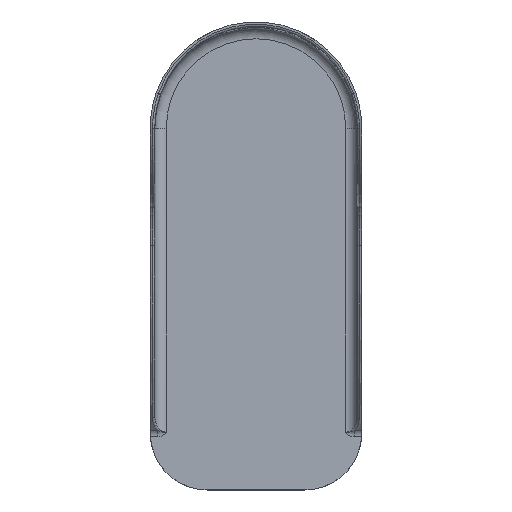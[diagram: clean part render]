
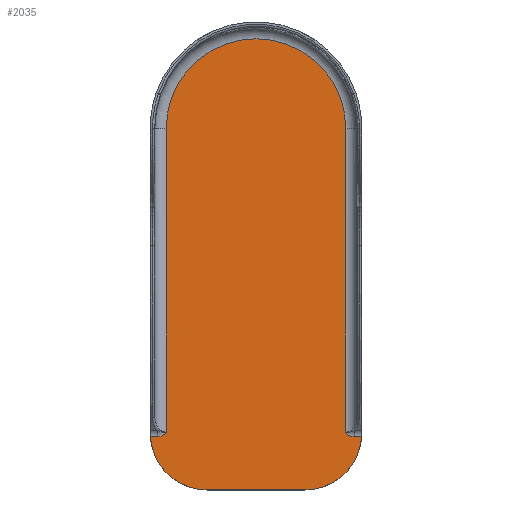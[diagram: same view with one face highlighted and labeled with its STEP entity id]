
A CAD part, top view. The second image highlights one B-rep face of the part: STEP entity #2035.
In plain terms, the highlighted planar face has unit normal (0, 0, 1).
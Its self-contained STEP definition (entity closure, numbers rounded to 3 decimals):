
#88=PLANE('',#2137);
#101=LINE('',#2839,#175);
#102=LINE('',#2846,#176);
#103=LINE('',#2850,#177);
#104=LINE('',#2864,#178);
#105=LINE('',#2868,#179);
#175=VECTOR('',#2319,10.);
#176=VECTOR('',#2322,10.);
#177=VECTOR('',#2325,10.);
#178=VECTOR('',#2326,10.);
#179=VECTOR('',#2329,10.);
#300=FACE_OUTER_BOUND('',#387,.T.);
#387=EDGE_LOOP('',(#1371,#1372,#1373,#1374,#1375,#1376,#1377,#1378,#1379,
#1380));
#527=B_SPLINE_CURVE_WITH_KNOTS('',3,(#2818,#2819,#2820,#2821,#2822,#2823,
#2824,#2825,#2826,#2827,#2828,#2829,#2830,#2831,#2832),.UNSPECIFIED.,.F.,
 .F.,(4,2,1,1,1,1,1,1,1,1,1,4),(-0.431,-0.43,-0.387,
-0.344,-0.301,-0.258,-0.215,
-0.172,-0.129,-0.086,-0.043,
0.),.UNSPECIFIED.);
#529=B_SPLINE_CURVE_WITH_KNOTS('',3,(#2852,#2853,#2854,#2855,#2856,#2857,
#2858,#2859,#2860,#2861,#2862),.UNSPECIFIED.,.F.,.F.,(4,1,1,1,1,1,2,4),
(-0.43,-0.344,-0.258,-0.215,
-0.172,-0.086,0.,0.001),
 .UNSPECIFIED.);
#691=CIRCLE('',#2138,39.45);
#692=CIRCLE('',#2139,25.);
#693=CIRCLE('',#2140,25.);
#784=VERTEX_POINT('',#2799);
#786=VERTEX_POINT('',#2802);
#789=VERTEX_POINT('',#2838);
#790=VERTEX_POINT('',#2845);
#791=VERTEX_POINT('',#2847);
#792=VERTEX_POINT('',#2849);
#793=VERTEX_POINT('',#2851);
#794=VERTEX_POINT('',#2863);
#795=VERTEX_POINT('',#2865);
#796=VERTEX_POINT('',#2867);
#1033=EDGE_CURVE('',#786,#784,#527,.T.);
#1036=EDGE_CURVE('',#784,#789,#101,.T.);
#1038=EDGE_CURVE('',#790,#786,#102,.T.);
#1039=EDGE_CURVE('',#791,#790,#691,.T.);
#1040=EDGE_CURVE('',#792,#791,#103,.T.);
#1041=EDGE_CURVE('',#793,#792,#529,.T.);
#1042=EDGE_CURVE('',#794,#793,#104,.T.);
#1043=EDGE_CURVE('',#794,#795,#692,.T.);
#1044=EDGE_CURVE('',#795,#796,#105,.T.);
#1045=EDGE_CURVE('',#796,#789,#693,.T.);
#1371=ORIENTED_EDGE('',*,*,#1036,.F.);
#1372=ORIENTED_EDGE('',*,*,#1033,.F.);
#1373=ORIENTED_EDGE('',*,*,#1038,.F.);
#1374=ORIENTED_EDGE('',*,*,#1039,.F.);
#1375=ORIENTED_EDGE('',*,*,#1040,.F.);
#1376=ORIENTED_EDGE('',*,*,#1041,.F.);
#1377=ORIENTED_EDGE('',*,*,#1042,.F.);
#1378=ORIENTED_EDGE('',*,*,#1043,.T.);
#1379=ORIENTED_EDGE('',*,*,#1044,.T.);
#1380=ORIENTED_EDGE('',*,*,#1045,.T.);
#2035=ADVANCED_FACE('',(#300),#88,.T.);
#2137=AXIS2_PLACEMENT_3D('',#2844,#2320,#2321);
#2138=AXIS2_PLACEMENT_3D('',#2848,#2323,#2324);
#2139=AXIS2_PLACEMENT_3D('',#2866,#2327,#2328);
#2140=AXIS2_PLACEMENT_3D('',#2869,#2330,#2331);
#2319=DIRECTION('',(1.,0.,0.));
#2320=DIRECTION('center_axis',(0.,0.,1.));
#2321=DIRECTION('ref_axis',(1.,0.,0.));
#2322=DIRECTION('',(0.,-1.,0.));
#2323=DIRECTION('center_axis',(0.,0.,-1.));
#2324=DIRECTION('ref_axis',(0.,1.,0.));
#2325=DIRECTION('',(0.,1.,0.));
#2326=DIRECTION('',(1.,0.,0.));
#2327=DIRECTION('center_axis',(0.,0.,1.));
#2328=DIRECTION('ref_axis',(1.,0.,0.));
#2329=DIRECTION('',(1.,0.,0.));
#2330=DIRECTION('center_axis',(0.,0.,1.));
#2331=DIRECTION('ref_axis',(1.,0.,0.));
#2799=CARTESIAN_POINT('',(43.095,-135.262,2.));
#2802=CARTESIAN_POINT('',(39.45,-133.368,2.));
#2818=CARTESIAN_POINT('Ctrl Pts',(39.45,-133.368,2.));
#2819=CARTESIAN_POINT('Ctrl Pts',(39.451,-133.371,2.));
#2820=CARTESIAN_POINT('Ctrl Pts',(39.452,-133.374,2.));
#2821=CARTESIAN_POINT('Ctrl Pts',(39.512,-133.507,2.));
#2822=CARTESIAN_POINT('Ctrl Pts',(39.657,-133.757,2.));
#2823=CARTESIAN_POINT('Ctrl Pts',(39.935,-134.087,2.));
#2824=CARTESIAN_POINT('Ctrl Pts',(40.256,-134.375,2.));
#2825=CARTESIAN_POINT('Ctrl Pts',(40.612,-134.62,2.));
#2826=CARTESIAN_POINT('Ctrl Pts',(40.995,-134.825,2.));
#2827=CARTESIAN_POINT('Ctrl Pts',(41.393,-134.987,2.));
#2828=CARTESIAN_POINT('Ctrl Pts',(41.807,-135.112,2.));
#2829=CARTESIAN_POINT('Ctrl Pts',(42.232,-135.2,2.));
#2830=CARTESIAN_POINT('Ctrl Pts',(42.663,-135.251,2.));
#2831=CARTESIAN_POINT('Ctrl Pts',(42.951,-135.262,2.));
#2832=CARTESIAN_POINT('Ctrl Pts',(43.095,-135.262,2.));
#2838=CARTESIAN_POINT('',(46.404,-135.262,2.));
#2839=CARTESIAN_POINT('',(22.225,-135.262,2.));
#2844=CARTESIAN_POINT('Origin',(0.,-56.15,2.));
#2845=CARTESIAN_POINT('',(39.45,0.,2.));
#2846=CARTESIAN_POINT('',(39.45,-36.825,2.));
#2847=CARTESIAN_POINT('',(-39.45,0.,2.));
#2848=CARTESIAN_POINT('Origin',(0.,0.,2.));
#2849=CARTESIAN_POINT('',(-39.45,-133.368,2.));
#2850=CARTESIAN_POINT('',(-39.45,-36.825,2.));
#2851=CARTESIAN_POINT('',(-43.095,-135.262,2.));
#2852=CARTESIAN_POINT('Ctrl Pts',(-43.095,-135.262,2.));
#2853=CARTESIAN_POINT('Ctrl Pts',(-42.808,-135.262,2.));
#2854=CARTESIAN_POINT('Ctrl Pts',(-42.229,-135.218,2.));
#2855=CARTESIAN_POINT('Ctrl Pts',(-41.526,-135.041,2.));
#2856=CARTESIAN_POINT('Ctrl Pts',(-40.995,-134.825,2.));
#2857=CARTESIAN_POINT('Ctrl Pts',(-40.485,-134.551,2.));
#2858=CARTESIAN_POINT('Ctrl Pts',(-39.914,-134.11,2.));
#2859=CARTESIAN_POINT('Ctrl Pts',(-39.571,-133.637,2.));
#2860=CARTESIAN_POINT('Ctrl Pts',(-39.452,-133.374,2.));
#2861=CARTESIAN_POINT('Ctrl Pts',(-39.451,-133.371,2.));
#2862=CARTESIAN_POINT('Ctrl Pts',(-39.45,-133.368,2.));
#2863=CARTESIAN_POINT('',(-46.404,-135.262,2.));
#2864=CARTESIAN_POINT('',(-23.225,-135.262,2.));
#2865=CARTESIAN_POINT('',(-21.45,-158.75,2.));
#2866=CARTESIAN_POINT('Origin',(-21.45,-133.75,2.));
#2867=CARTESIAN_POINT('',(21.45,-158.75,2.));
#2868=CARTESIAN_POINT('',(-46.45,-158.75,2.));
#2869=CARTESIAN_POINT('Origin',(21.45,-133.75,2.));
